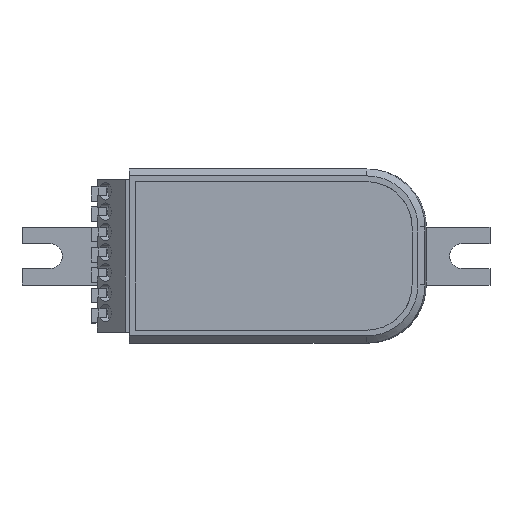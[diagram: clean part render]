
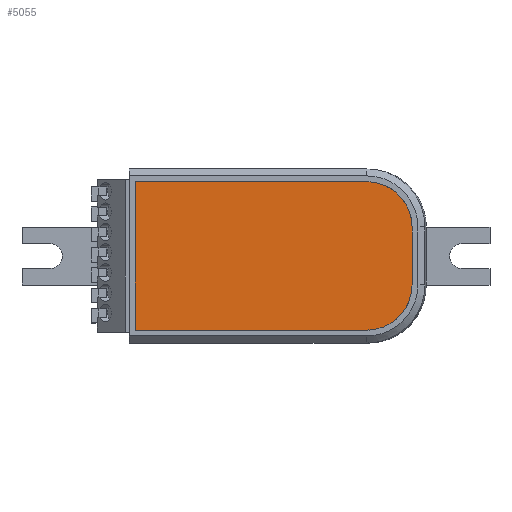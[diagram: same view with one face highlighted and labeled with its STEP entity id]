
A CAD part, top view. The second image highlights one B-rep face of the part: STEP entity #5055.
In plain terms, the highlighted planar face has unit normal (0, 0, 1).
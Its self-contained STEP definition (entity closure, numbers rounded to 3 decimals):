
#1815=DIRECTION('',(0.,-1.,0.));
#1816=VECTOR('',#1815,25.6);
#1817=CARTESIAN_POINT('',(14.69,12.8,15.1));
#1818=LINE('',#1817,#1816);
#1819=DIRECTION('',(-1.,0.,0.));
#1820=VECTOR('',#1819,39.952);
#1821=CARTESIAN_POINT('',(54.642,12.8,15.1));
#1822=LINE('',#1821,#1820);
#1823=CARTESIAN_POINT('',(62.444,5.,15.1));
#1824=CARTESIAN_POINT('',(62.444,5.509,15.1));
#1825=CARTESIAN_POINT('',(62.343,6.531,15.1));
#1826=CARTESIAN_POINT('',(61.897,8.002,15.1));
#1827=CARTESIAN_POINT('',(61.172,9.36,15.1));
#1828=CARTESIAN_POINT('',(60.196,10.55,15.1));
#1829=CARTESIAN_POINT('',(59.006,11.526,15.1));
#1830=CARTESIAN_POINT('',(57.648,12.252,15.1));
#1831=CARTESIAN_POINT('',(56.175,12.699,15.1));
#1832=CARTESIAN_POINT('',(55.152,12.8,15.1));
#1833=CARTESIAN_POINT('',(54.642,12.8,15.1));
#1835=DIRECTION('',(0.,1.,0.));
#1836=VECTOR('',#1835,10.);
#1837=CARTESIAN_POINT('',(62.444,-5.,15.1));
#1838=LINE('',#1837,#1836);
#1839=CARTESIAN_POINT('',(54.642,-12.8,15.1));
#1840=CARTESIAN_POINT('',(55.151,-12.8,15.1));
#1841=CARTESIAN_POINT('',(56.174,-12.7,15.1));
#1842=CARTESIAN_POINT('',(57.645,-12.253,15.1));
#1843=CARTESIAN_POINT('',(59.003,-11.528,15.1));
#1844=CARTESIAN_POINT('',(60.194,-10.552,15.1));
#1845=CARTESIAN_POINT('',(61.17,-9.362,15.1));
#1846=CARTESIAN_POINT('',(61.896,-8.004,15.1));
#1847=CARTESIAN_POINT('',(62.343,-6.532,15.1));
#1848=CARTESIAN_POINT('',(62.444,-5.509,15.1));
#1849=CARTESIAN_POINT('',(62.444,-5.,15.1));
#1851=DIRECTION('',(1.,0.,0.));
#1852=VECTOR('',#1851,39.952);
#1853=CARTESIAN_POINT('',(14.69,-12.8,15.1));
#1854=LINE('',#1853,#1852);
#1905=CARTESIAN_POINT('',(14.69,12.8,15.1));
#1906=CARTESIAN_POINT('',(14.69,-12.8,15.1));
#1907=VERTEX_POINT('',#1905);
#1908=VERTEX_POINT('',#1906);
#1909=CARTESIAN_POINT('',(54.642,-12.8,15.1));
#1910=VERTEX_POINT('',#1909);
#1911=VERTEX_POINT('',#1849);
#1912=CARTESIAN_POINT('',(62.444,5.,15.1));
#1913=VERTEX_POINT('',#1912);
#1914=VERTEX_POINT('',#1833);
#5042=CARTESIAN_POINT('',(36.09,15.,15.1));
#5043=DIRECTION('',(0.,0.,1.));
#5044=DIRECTION('',(1.,0.,0.));
#5045=AXIS2_PLACEMENT_3D('',#5042,#5043,#5044);
#5046=PLANE('',#5045);
#5047=ORIENTED_EDGE('',*,*,#4942,.F.);
#5048=ORIENTED_EDGE('',*,*,#4957,.F.);
#5049=ORIENTED_EDGE('',*,*,#4983,.F.);
#5050=ORIENTED_EDGE('',*,*,#4997,.F.);
#5051=ORIENTED_EDGE('',*,*,#5023,.F.);
#5052=ORIENTED_EDGE('',*,*,#5036,.F.);
#5053=EDGE_LOOP('',(#5047,#5048,#5049,#5050,#5051,#5052));
#5054=FACE_OUTER_BOUND('',#5053,.F.);
#5055=ADVANCED_FACE('',(#5054),#5046,.T.);
#1834=B_SPLINE_CURVE_WITH_KNOTS('',3,(#1823,#1824,#1825,#1826,#1827,#1828,#1829,
#1830,#1831,#1832,#1833),.UNSPECIFIED.,.F.,.F.,(4,1,1,1,1,1,1,1,4),(0.,
0.125,0.25,0.375,0.5,
0.625,0.75,0.875,1.),.UNSPECIFIED.);
#1850=B_SPLINE_CURVE_WITH_KNOTS('',3,(#1839,#1840,#1841,#1842,#1843,#1844,#1845,
#1846,#1847,#1848,#1849),.UNSPECIFIED.,.F.,.F.,(4,1,1,1,1,1,1,1,4),(0.,
0.125,0.25,0.375,0.5,
0.625,0.75,0.875,1.),.UNSPECIFIED.);
#4942=EDGE_CURVE('',#1907,#1908,#1818,.T.);
#4957=EDGE_CURVE('',#1914,#1907,#1822,.T.);
#4983=EDGE_CURVE('',#1913,#1914,#1834,.T.);
#4997=EDGE_CURVE('',#1911,#1913,#1838,.T.);
#5023=EDGE_CURVE('',#1910,#1911,#1850,.T.);
#5036=EDGE_CURVE('',#1908,#1910,#1854,.T.);
